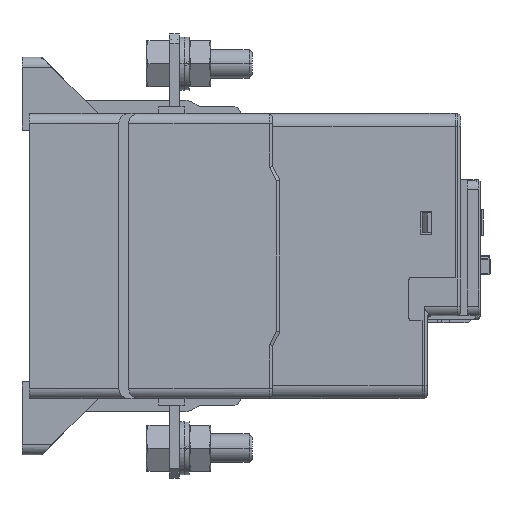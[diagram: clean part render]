
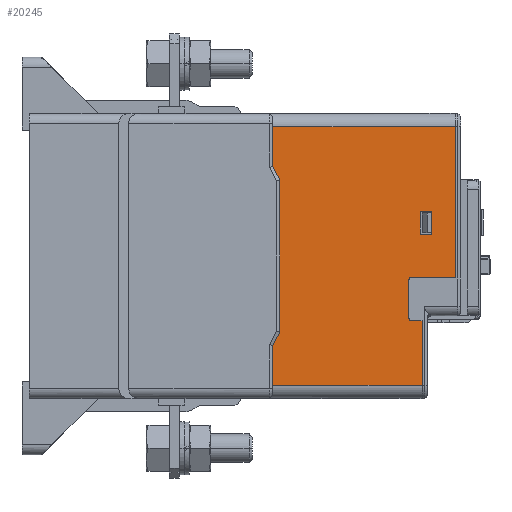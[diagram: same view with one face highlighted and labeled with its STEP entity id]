
A CAD part, front view. The second image highlights one B-rep face of the part: STEP entity #20245.
In plain terms, the highlighted planar face has unit normal (0, -1, 0).
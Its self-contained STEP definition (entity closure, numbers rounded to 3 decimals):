
#2675=DIRECTION('',(-1.,0.,0.));
#2676=VECTOR('',#2675,3.6);
#2677=CARTESIAN_POINT('',(97.75,-33.,6.6));
#2678=LINE('',#2677,#2676);
#2679=DIRECTION('',(0.,0.,-1.));
#2680=VECTOR('',#2679,6.8);
#2681=CARTESIAN_POINT('',(97.75,-33.,13.4));
#2682=LINE('',#2681,#2680);
#2683=DIRECTION('',(1.,0.,0.));
#2684=VECTOR('',#2683,3.6);
#2685=CARTESIAN_POINT('',(94.15,-33.,13.4));
#2686=LINE('',#2685,#2684);
#2687=DIRECTION('',(0.,0.,1.));
#2688=VECTOR('',#2687,6.8);
#2689=CARTESIAN_POINT('',(94.15,-33.,6.6));
#2690=LINE('',#2689,#2688);
#2691=DIRECTION('',(0.,0.,-1.));
#2692=VECTOR('',#2691,12.);
#2693=CARTESIAN_POINT('',(49.75,-33.,-27.));
#2694=LINE('',#2693,#2692);
#2695=DIRECTION('',(-0.447,0.,-0.894));
#2696=VECTOR('',#2695,4.472);
#2697=CARTESIAN_POINT('',(51.75,-33.,-23.));
#2698=LINE('',#2697,#2696);
#2699=DIRECTION('',(0.,0.,-1.));
#2700=VECTOR('',#2699,46.);
#2701=CARTESIAN_POINT('',(51.75,-33.,23.));
#2702=LINE('',#2701,#2700);
#2703=DIRECTION('',(0.447,0.,-0.894));
#2704=VECTOR('',#2703,4.472);
#2705=CARTESIAN_POINT('',(49.75,-33.,27.));
#2706=LINE('',#2705,#2704);
#2707=DIRECTION('',(0.,0.,-1.));
#2708=VECTOR('',#2707,12.);
#2709=CARTESIAN_POINT('',(49.75,-33.,39.));
#2710=LINE('',#2709,#2708);
#2711=DIRECTION('',(1.,0.,0.));
#2712=VECTOR('',#2711,3.);
#2713=CARTESIAN_POINT('',(91.75,-33.,-19.6));
#2714=LINE('',#2713,#2712);
#2715=DIRECTION('',(0.,0.,1.));
#2716=VECTOR('',#2715,19.4);
#2717=CARTESIAN_POINT('',(94.75,-33.,-39.));
#2718=LINE('',#2717,#2716);
#9623=DIRECTION('',(1.,0.,0.));
#9624=VECTOR('',#9623,45.);
#9625=CARTESIAN_POINT('',(49.75,-33.,-39.));
#9626=LINE('',#9625,#9624);
#10091=DIRECTION('',(0.,0.,1.));
#10092=VECTOR('',#10091,45.4);
#10093=CARTESIAN_POINT('',(104.75,-33.,-6.4));
#10094=LINE('',#10093,#10092);
#10312=DIRECTION('',(-1.,0.,0.));
#10313=VECTOR('',#10312,55.);
#10314=CARTESIAN_POINT('',(104.75,-33.,39.));
#10315=LINE('',#10314,#10313);
#11109=DIRECTION('',(1.,0.,0.));
#11110=VECTOR('',#11109,13.);
#11111=CARTESIAN_POINT('',(91.75,-33.,-6.4));
#11112=LINE('',#11111,#11110);
#11113=CARTESIAN_POINT('',(91.75,-33.,-7.4));
#11114=DIRECTION('',(0.,1.,0.));
#11115=DIRECTION('',(-1.,0.,0.));
#11116=AXIS2_PLACEMENT_3D('',#11113,#11114,#11115);
#11135=DIRECTION('',(0.,0.,1.));
#11136=VECTOR('',#11135,11.2);
#11137=CARTESIAN_POINT('',(90.75,-33.,-18.6));
#11138=LINE('',#11137,#11136);
#11160=CARTESIAN_POINT('',(91.75,-33.,-18.6));
#11161=DIRECTION('',(0.,1.,0.));
#11162=DIRECTION('',(0.,0.,-1.));
#11163=AXIS2_PLACEMENT_3D('',#11160,#11161,#11162);
#13731=CARTESIAN_POINT('',(94.75,-33.,-19.6));
#13733=VERTEX_POINT('',#13731);
#13739=CARTESIAN_POINT('',(104.75,-33.,-6.4));
#13741=VERTEX_POINT('',#13739);
#13919=CARTESIAN_POINT('',(90.75,-33.,-7.4));
#13921=VERTEX_POINT('',#13919);
#13923=CARTESIAN_POINT('',(91.75,-33.,-6.4));
#13925=VERTEX_POINT('',#13923);
#13928=CARTESIAN_POINT('',(90.75,-33.,-18.6));
#13930=VERTEX_POINT('',#13928);
#13932=CARTESIAN_POINT('',(91.75,-33.,-19.6));
#13934=VERTEX_POINT('',#13932);
#13991=CARTESIAN_POINT('',(97.75,-33.,6.6));
#13992=CARTESIAN_POINT('',(94.15,-33.,6.6));
#13993=VERTEX_POINT('',#13991);
#13994=VERTEX_POINT('',#13992);
#13995=CARTESIAN_POINT('',(94.15,-33.,13.4));
#13996=VERTEX_POINT('',#13995);
#13997=CARTESIAN_POINT('',(97.75,-33.,13.4));
#13998=VERTEX_POINT('',#13997);
#15646=CARTESIAN_POINT('',(49.75,-33.,27.));
#15647=CARTESIAN_POINT('',(51.75,-33.,23.));
#15648=VERTEX_POINT('',#15646);
#15649=VERTEX_POINT('',#15647);
#15650=CARTESIAN_POINT('',(51.75,-33.,-23.));
#15651=VERTEX_POINT('',#15650);
#15652=CARTESIAN_POINT('',(49.75,-33.,-27.));
#15653=VERTEX_POINT('',#15652);
#15670=CARTESIAN_POINT('',(94.75,-33.,-39.));
#15672=VERTEX_POINT('',#15670);
#15695=CARTESIAN_POINT('',(104.75,-33.,39.));
#15697=VERTEX_POINT('',#15695);
#15706=CARTESIAN_POINT('',(49.75,-33.,39.));
#15707=VERTEX_POINT('',#15706);
#15708=CARTESIAN_POINT('',(49.75,-33.,-39.));
#15709=VERTEX_POINT('',#15708);
#20203=CARTESIAN_POINT('',(34.75,-33.,43.));
#20204=DIRECTION('',(0.,-1.,0.));
#20205=DIRECTION('',(0.,0.,-1.));
#20206=AXIS2_PLACEMENT_3D('',#20203,#20204,#20205);
#20207=PLANE('',#20206);
#20209=ORIENTED_EDGE('',*,*,#20208,.F.);
#20210=ORIENTED_EDGE('',*,*,#17743,.F.);
#20212=ORIENTED_EDGE('',*,*,#20211,.F.);
#20214=ORIENTED_EDGE('',*,*,#20213,.F.);
#20215=ORIENTED_EDGE('',*,*,#20196,.F.);
#20216=ORIENTED_EDGE('',*,*,#17707,.F.);
#20218=ORIENTED_EDGE('',*,*,#20217,.F.);
#20220=ORIENTED_EDGE('',*,*,#20219,.F.);
#20222=ORIENTED_EDGE('',*,*,#20221,.F.);
#20224=ORIENTED_EDGE('',*,*,#20223,.F.);
#20226=ORIENTED_EDGE('',*,*,#20225,.F.);
#20228=ORIENTED_EDGE('',*,*,#20227,.F.);
#20230=ORIENTED_EDGE('',*,*,#20229,.T.);
#20232=ORIENTED_EDGE('',*,*,#20231,.F.);
#20233=EDGE_LOOP('',(#20209,#20210,#20212,#20214,#20215,#20216,#20218,#20220,
#20222,#20224,#20226,#20228,#20230,#20232));
#20234=FACE_OUTER_BOUND('',#20233,.F.);
#20236=ORIENTED_EDGE('',*,*,#20235,.F.);
#20238=ORIENTED_EDGE('',*,*,#20237,.F.);
#20240=ORIENTED_EDGE('',*,*,#20239,.F.);
#20242=ORIENTED_EDGE('',*,*,#20241,.F.);
#20243=EDGE_LOOP('',(#20236,#20238,#20240,#20242));
#20244=FACE_BOUND('',#20243,.F.);
#20245=ADVANCED_FACE('',(#20234,#20244),#20207,.T.);
#11117=CIRCLE('',#11116,1.);
#11164=CIRCLE('',#11163,1.);
#17707=EDGE_CURVE('',#15707,#15648,#2710,.T.);
#17743=EDGE_CURVE('',#15653,#15709,#2694,.T.);
#20196=EDGE_CURVE('',#15648,#15649,#2706,.T.);
#20208=EDGE_CURVE('',#15709,#15672,#9626,.T.);
#20211=EDGE_CURVE('',#15651,#15653,#2698,.T.);
#20213=EDGE_CURVE('',#15649,#15651,#2702,.T.);
#20217=EDGE_CURVE('',#15697,#15707,#10315,.T.);
#20219=EDGE_CURVE('',#13741,#15697,#10094,.T.);
#20221=EDGE_CURVE('',#13925,#13741,#11112,.T.);
#20223=EDGE_CURVE('',#13921,#13925,#11117,.T.);
#20225=EDGE_CURVE('',#13930,#13921,#11138,.T.);
#20227=EDGE_CURVE('',#13934,#13930,#11164,.T.);
#20229=EDGE_CURVE('',#13934,#13733,#2714,.T.);
#20231=EDGE_CURVE('',#15672,#13733,#2718,.T.);
#20235=EDGE_CURVE('',#13993,#13994,#2678,.T.);
#20237=EDGE_CURVE('',#13998,#13993,#2682,.T.);
#20239=EDGE_CURVE('',#13996,#13998,#2686,.T.);
#20241=EDGE_CURVE('',#13994,#13996,#2690,.T.);
